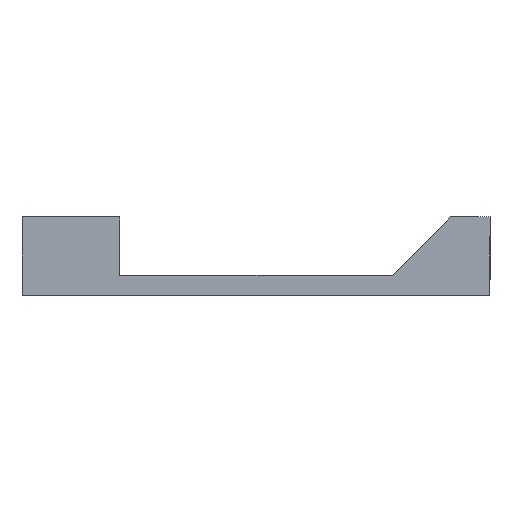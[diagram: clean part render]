
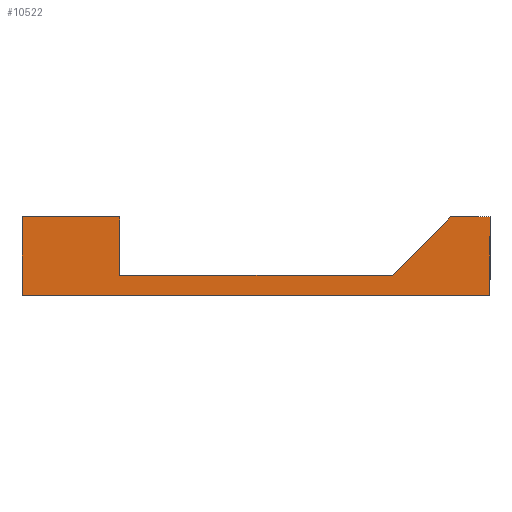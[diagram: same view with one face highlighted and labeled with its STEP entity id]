
A CAD part, left-side view. The second image highlights one B-rep face of the part: STEP entity #10522.
In plain terms, the highlighted planar face has unit normal (-1, 0, 0).
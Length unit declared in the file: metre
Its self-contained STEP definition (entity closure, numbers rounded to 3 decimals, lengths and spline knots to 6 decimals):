
#12=LINE('',#17741,#75);
#30=LINE('',#17782,#93);
#35=LINE('',#17791,#98);
#36=LINE('',#17794,#99);
#37=LINE('',#17795,#100);
#38=LINE('',#17797,#101);
#39=LINE('',#17798,#102);
#40=LINE('',#17800,#103);
#75=VECTOR('',#15111,1.);
#93=VECTOR('',#15137,1.);
#98=VECTOR('',#15144,1.);
#99=VECTOR('',#15145,1.);
#100=VECTOR('',#15146,1.);
#101=VECTOR('',#15147,1.);
#102=VECTOR('',#15148,1.);
#103=VECTOR('',#15149,1.);
#143=PLANE('',#12068);
#1191=ORIENTED_EDGE('',*,*,#3332,.T.);
#1192=ORIENTED_EDGE('',*,*,#3333,.T.);
#1193=ORIENTED_EDGE('',*,*,#3309,.F.);
#1194=ORIENTED_EDGE('',*,*,#3334,.F.);
#1195=ORIENTED_EDGE('',*,*,#3335,.F.);
#1196=ORIENTED_EDGE('',*,*,#3327,.T.);
#1197=ORIENTED_EDGE('',*,*,#3336,.T.);
#1198=ORIENTED_EDGE('',*,*,#3337,.F.);
#3309=EDGE_CURVE('',#4380,#4381,#12,.T.);
#3327=EDGE_CURVE('',#4399,#4398,#30,.T.);
#3332=EDGE_CURVE('',#4402,#4403,#35,.T.);
#3333=EDGE_CURVE('',#4403,#4381,#36,.T.);
#3334=EDGE_CURVE('',#4404,#4380,#37,.T.);
#3335=EDGE_CURVE('',#4399,#4404,#38,.T.);
#3336=EDGE_CURVE('',#4398,#4405,#39,.T.);
#3337=EDGE_CURVE('',#4402,#4405,#40,.T.);
#4380=VERTEX_POINT('',#17742);
#4381=VERTEX_POINT('',#17743);
#4398=VERTEX_POINT('',#17781);
#4399=VERTEX_POINT('',#17783);
#4402=VERTEX_POINT('',#17792);
#4403=VERTEX_POINT('',#17793);
#4404=VERTEX_POINT('',#17796);
#4405=VERTEX_POINT('',#17799);
#6443=EDGE_LOOP('',(#1191,#1192,#1193,#1194,#1195,#1196,#1197,#1198));
#8482=FACE_BOUND('',#6443,.T.);
#10522=ADVANCED_FACE('',(#8482),#143,.F.);
#12068=AXIS2_PLACEMENT_3D('',#17790,#15142,#15143);
#15111=DIRECTION('',(0.,-1.,0.));
#15137=DIRECTION('',(0.,0.,-1.));
#15142=DIRECTION('',(1.,0.,0.));
#15143=DIRECTION('',(0.,0.,-1.));
#15144=DIRECTION('',(0.,1.,0.));
#15145=DIRECTION('',(0.,0.707,-0.707));
#15146=DIRECTION('',(0.,0.,-1.));
#15147=DIRECTION('',(0.,-1.,0.));
#15148=DIRECTION('',(0.,-1.,0.));
#15149=DIRECTION('',(0.,0.,-1.));
#17741=CARTESIAN_POINT('',(-0.1016,0.0762,0.006363));
#17742=CARTESIAN_POINT('',(-0.1016,0.12065,0.006363));
#17743=CARTESIAN_POINT('',(-0.1016,0.03175,0.006363));
#17781=CARTESIAN_POINT('',(-0.1016,0.1524,0.));
#17782=CARTESIAN_POINT('',(-0.1016,0.1524,0.001588));
#17783=CARTESIAN_POINT('',(-0.1016,0.1524,0.025413));
#17790=CARTESIAN_POINT('',(-0.1016,0.0762,0.001588));
#17791=CARTESIAN_POINT('',(-0.1016,0.0762,0.025413));
#17792=CARTESIAN_POINT('',(-0.1016,0.,0.025413));
#17793=CARTESIAN_POINT('',(-0.1016,0.0127,0.025413));
#17794=CARTESIAN_POINT('',(-0.1016,0.03175,0.006363));
#17795=CARTESIAN_POINT('',(-0.1016,0.12065,0.025413));
#17796=CARTESIAN_POINT('',(-0.1016,0.12065,0.025413));
#17797=CARTESIAN_POINT('',(-0.1016,0.0762,0.025413));
#17798=CARTESIAN_POINT('',(-0.1016,0.0762,0.));
#17799=CARTESIAN_POINT('',(-0.1016,0.,0.));
#17800=CARTESIAN_POINT('',(-0.1016,0.,0.001588));
